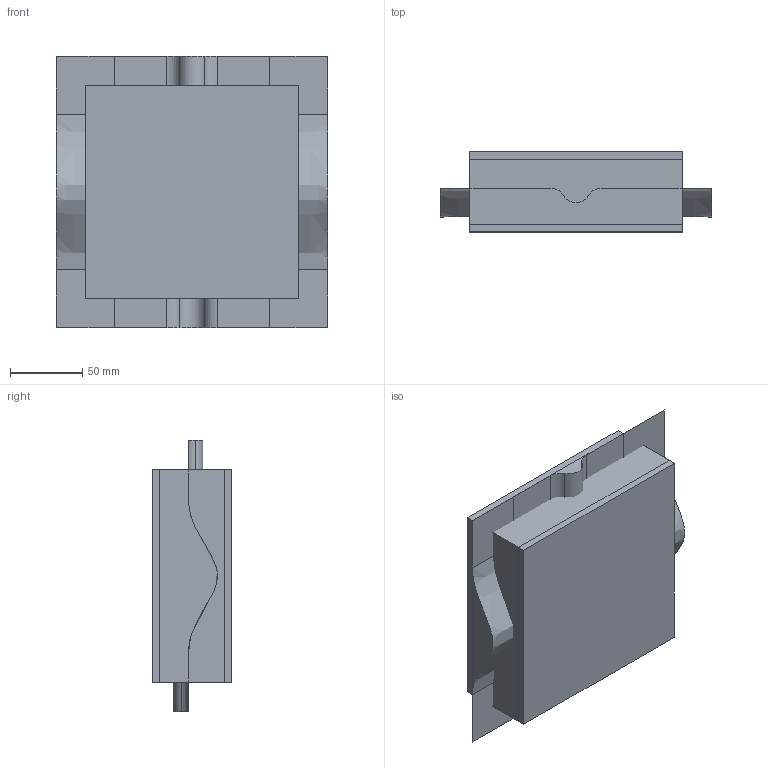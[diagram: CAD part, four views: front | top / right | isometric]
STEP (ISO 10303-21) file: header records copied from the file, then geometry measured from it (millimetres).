
FILE_DESCRIPTION(('CATIA V5 STEP Exchange'),'2;1');
FILE_NAME('C:\_Andres\UNIVERSIDAD\IQS\ASIGNATURAS\DAO\EXF\EXF-16172c\2inicio\Carreras_Buscato_Ej02_v7.stp','2017-03-05T15:45:18+00:00',('none'),('none'),'CATIA Version 5-6 Release 2014 SP1 HF18','CATIA V5 STEP AP203','none');
FILE_SCHEMA(('CONFIG_CONTROL_DESIGN'));
Length unit declared in the file: millimetre
Products named in the file (1): Carreras_Buscato_Ej02_v7
Bounding box: 187 x 55 x 187 mm (x, y, z)
Surface area: 222632.9 mm2
Topology: 3 solids, 10 shells, 72 faces, 205 edges, 150 vertices
Faces by surface type: bspline 32, plane 32, cylinder 6, extrusion 2
Entity records: 6074 total; most frequent: CARTESIAN_POINT 4757, ORIENTED_EDGE 288, DIRECTION 151, EDGE_CURVE 132, VERTEX_POINT 84, VECTOR 77, LINE 75, ADVANCED_FACE 72
